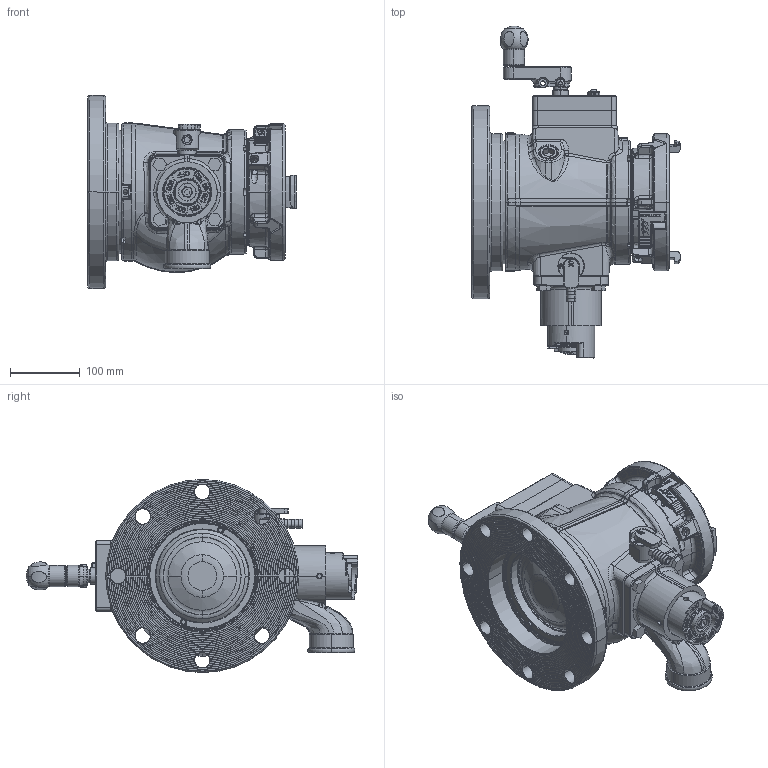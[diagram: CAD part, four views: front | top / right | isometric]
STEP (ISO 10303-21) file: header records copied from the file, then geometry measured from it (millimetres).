
FILE_DESCRIPTION (( 'STEP AP203' ), '1' );
FILE_NAME ('AP1ST-FX-PS.step', '2014-05-13T19:12:46', ( 'user' ), ( '' ), 'SwSTEP 2.0', 'SolidWorks 2012', '' );
FILE_SCHEMA (( 'CONFIG_CONTROL_DESIGN' ));
Length unit declared in the file: inch
Products named in the file (1): AP1ST-FX-PS
Bounding box: 298.52 x 476 x 276.86 mm (x, y, z)
Surface area: 651906.6 mm2 (no closed solid volume)
Topology: 0 solids, 70 shells, 2044 faces, 7183 edges, 5040 vertices
Faces by surface type: plane 645, bspline 423, cylinder 403, cone 274, torus 263, sphere 36
Entity records: 132597 total; most frequent: CARTESIAN_POINT 77509, ORIENTED_EDGE 11525, DIRECTION 9977, EDGE_CURVE 7161, VERTEX_POINT 5036, AXIS2_PLACEMENT_3D 3744, VECTOR 2489, LINE 2489
